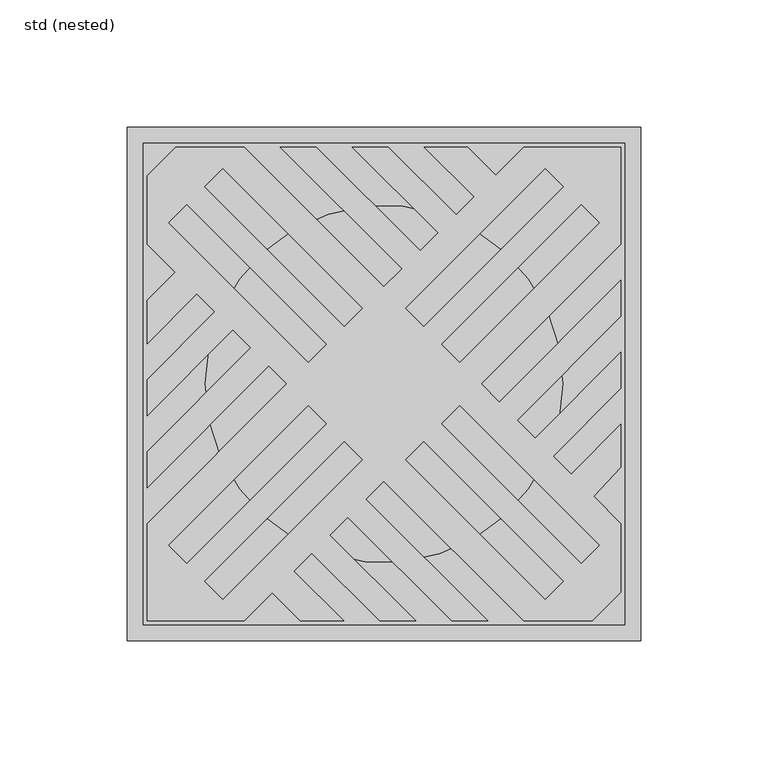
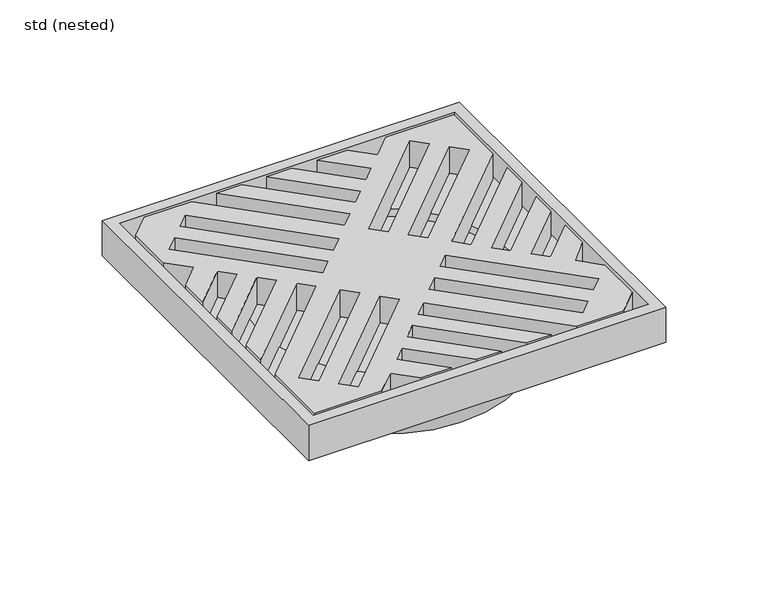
"""IFC4 building model written with IfcOpenShell, lengths in millimetres: sanitary terminal geometry, ZZZ_do not use_PF_CI_cover for Passavant Spin 200x200 M125_ACO : std (nested)."""

import ifcopenshell
import ifcopenshell.guid

model = None  # the IFC model being written
_history = None  # IfcOwnerHistory: only IFC2X3 demands one
_inside = {}  # id of a spatial element -> (the spatial element, [elements in it])
_under = {}  # id of a project, library or spatial element -> (it, [spatial elements below it])
_declared = {}  # id of a project -> (the project, [libraries it declares])
_typed = {}  # id of a type object -> (the type object, [elements of that type])
_made_of = {}  # id of a material, layer set ... -> (it, [elements and type objects made of it])


def new_model(schema):
    """Start an empty IFC model of exactly this schema.

    Asked for "IFC4X3", IfcOpenShell would pick the latest addendum, in which some entities
    have other attributes; the version numbers below select the first issue.
    IFC2X3 requires an IfcOwnerHistory on every rooted entity: one is made here for all.
    """
    global model, _history
    if schema == "IFC4X3":
        model = ifcopenshell.file(schema_version=(4, 3, 0, 0))
    else:
        model = ifcopenshell.file(schema=schema)
    _inside.clear()
    _under.clear()
    _declared.clear()
    _typed.clear()
    _made_of.clear()
    _history = None
    if model.schema == "IFC2X3":
        org = make("IfcOrganization", Name="unknown")
        user = make(
            "IfcPersonAndOrganization",
            ThePerson=make("IfcPerson", FamilyName="unknown"),
            TheOrganization=org,
        )
        app = make(
            "IfcApplication",
            ApplicationDeveloper=org,
            Version="unknown",
            ApplicationFullName="unknown",
            ApplicationIdentifier="unknown",
        )
        _history = make(
            "IfcOwnerHistory",
            OwningUser=user,
            OwningApplication=app,
            ChangeAction="ADDED",
            CreationDate=0,
        )
    return model


def make(cls, **values):
    """One entity of the class cls with the attributes given. An attribute that is None is left unset."""
    return model.create_entity(
        cls, **{name: value for name, value in values.items() if value is not None}
    )


def rooted(cls, **values):
    """An entity with a GlobalId (a new one), such as an element, a storey or a relation."""
    return make(cls, GlobalId=ifcopenshell.guid.new(), OwnerHistory=_history, **values)


def si_unit(unit_type, name, prefix=None):
    """IfcSIUnit, for example si_unit("LENGTHUNIT", "METRE", prefix="MILLI")."""
    return make("IfcSIUnit", UnitType=unit_type, Prefix=prefix, Name=name)


def assignment(units):
    """IfcUnitAssignment: the units of a project."""
    return None if units is None else make("IfcUnitAssignment", Units=units)


def point(xyz):
    """IfcCartesianPoint."""
    return None if xyz is None else make("IfcCartesianPoint", Coordinates=xyz)


def direction(xyz):
    """IfcDirection."""
    return None if xyz is None else make("IfcDirection", DirectionRatios=xyz)


def frame(location, z_axis=None, x_axis=None):
    """IfcAxis2Placement3D, a coordinate frame: its origin and axes. An axis left out is left unset."""
    return make(
        "IfcAxis2Placement3D",
        Location=point(location),
        Axis=direction(z_axis),
        RefDirection=direction(x_axis),
    )


def origin():
    """The frame at (0, 0, 0) with its axes left unset."""
    return frame((0.0, 0.0, 0.0))


def place(relative_to, where):
    """IfcLocalPlacement: puts the frame where relative to a parent placement (None: the world)."""
    return make(
        "IfcLocalPlacement", PlacementRelTo=relative_to, RelativePlacement=where
    )


def context(
    kind, dimensions, precision=None, world=None, true_north=None, identifier=None
):
    """IfcGeometricRepresentationContext, for example the 3D "Model" context."""
    return make(
        "IfcGeometricRepresentationContext",
        ContextIdentifier=identifier,
        ContextType=kind,
        CoordinateSpaceDimension=dimensions,
        Precision=precision,
        WorldCoordinateSystem=world,
        TrueNorth=true_north,
    )


def project(units=None, contexts=None):
    """IfcProject with its units and contexts."""
    return rooted(
        "IfcProject",
        Name="project",
        RepresentationContexts=contexts,
        UnitsInContext=assignment(units),
    )


def spatial(cls, under=None, at=None, **own):
    """A site, building, storey or space (cls), placed at a placement, below another one or the project."""
    s = rooted(cls, ObjectPlacement=at, **own)
    if under is not None:
        _under.setdefault(under.id(), (under, []))[1].append(s)
    return s


def polyline(points):
    """IfcPolyline through the points."""
    return make("IfcPolyline", Points=[point(p) for p in points])


def circle_curve(where, radius):
    """IfcCircle in the frame where."""
    return make("IfcCircle", Position=where, Radius=radius)


def outline(outer, holes=None, kind="AREA"):
    """IfcArbitraryClosedProfileDef: a profile drawn as a closed curve; with holes, ...WithVoids."""
    if holes is None:
        return make("IfcArbitraryClosedProfileDef", ProfileType=kind, OuterCurve=outer)
    return make(
        "IfcArbitraryProfileDefWithVoids",
        ProfileType=kind,
        OuterCurve=outer,
        InnerCurves=holes,
    )


def extrude(swept, where, along, depth):
    """IfcExtrudedAreaSolid: the profile swept, set in the frame where, extruded along a direction by depth."""
    return make(
        "IfcExtrudedAreaSolid",
        SweptArea=swept,
        Position=where,
        ExtrudedDirection=direction(along),
        Depth=depth,
    )


def faces_of(points, faces, orient=None, outer=None):
    """IfcFace entities. A face is a list of loops; a loop is a list of indices into points, from 0.

    orient and outer hold one flag for each loop. By default every Orientation is true, the
    first loop of a face is its IfcFaceOuterBound and the others are IfcFaceBound.
    """
    made = []
    for i, loops in enumerate(faces):
        bounds = []
        for j, loop in enumerate(loops):
            is_outer = j == 0 if outer is None else outer[i][j]
            bounds.append(
                make(
                    "IfcFaceOuterBound" if is_outer else "IfcFaceBound",
                    Bound=make("IfcPolyLoop", Polygon=[points[k] for k in loop]),
                    Orientation=True if orient is None else orient[i][j],
                )
            )
        made.append(make("IfcFace", Bounds=bounds))
    return made


def faceted_brep(points, faces, orient=None, outer=None, voids=None):
    """IfcFacetedBrep: a solid bounded by flat faces; with voids (closed shells), ...WithVoids."""
    shared = [point(p) for p in points]
    hull = make("IfcClosedShell", CfsFaces=faces_of(shared, faces, orient, outer))
    if voids is None:
        return make("IfcFacetedBrep", Outer=hull)
    return make(
        "IfcFacetedBrepWithVoids",
        Outer=hull,
        Voids=[
            make(cls, CfsFaces=faces_of(shared, fs, o, b)) for cls, fs, o, b in voids
        ],
    )


def shape(context_of_items, identifier, shape_type, items):
    """IfcShapeRepresentation: the items that make up one representation, for example the "Body"."""
    return make(
        "IfcShapeRepresentation",
        ContextOfItems=context_of_items,
        RepresentationIdentifier=identifier,
        RepresentationType=shape_type,
        Items=items,
    )


def source(mapping_origin, context_of_items, identifier, shape_type, items):
    """IfcRepresentationMap: a shape defined once, which mapped items show again and again."""
    return make(
        "IfcRepresentationMap",
        MappingOrigin=mapping_origin,
        MappedRepresentation=shape(context_of_items, identifier, shape_type, items),
    )


def transform(
    local_origin,
    x_axis=None,
    y_axis=None,
    z_axis=None,
    scale=None,
    scale2=None,
    scale3=None,
    uniform=True,
):
    """IfcCartesianTransformationOperator3D, or its non-uniform kind. x_axis, y_axis, z_axis: its Axis1, 2, 3."""
    if uniform:
        return make(
            "IfcCartesianTransformationOperator3D",
            Axis1=direction(x_axis),
            Axis2=direction(y_axis),
            LocalOrigin=point(local_origin),
            Scale=scale,
            Axis3=direction(z_axis),
        )
    return make(
        "IfcCartesianTransformationOperator3DnonUniform",
        Axis1=direction(x_axis),
        Axis2=direction(y_axis),
        LocalOrigin=point(local_origin),
        Scale=scale,
        Axis3=direction(z_axis),
        Scale2=scale2,
        Scale3=scale3,
    )


def mapped(mapping_source, mapping_target):
    """IfcMappedItem: shows the shape of a source again, moved by a transform."""
    return make(
        "IfcMappedItem", MappingSource=mapping_source, MappingTarget=mapping_target
    )


def made_of(thing, what):
    """Note that an element or type object is made of a material, layer set ...; save() writes the relation."""
    if what is not None:
        _made_of.setdefault(what.id(), (what, []))[1].append(thing)
    return thing


def element(
    cls,
    number,
    at=None,
    inside=None,
    cuts=None,
    type_object=None,
    material=None,
    context=None,
    identifier="Body",
    shape_type=None,
    held_by="IfcProductDefinitionShape",
    body=None,
    shapes=None,
    **own,
):
    """One element of the class cls, such as IfcWall. Its Tag is "e" and its number.

    at: its placement. inside: the storey or other place that contains it. cuts: it is an
    opening in that element (IfcRelVoidsElement). A single representation is given by context,
    identifier, shape_type and body (its items); several are given by shapes. held_by: the class
    of the entity that holds the representations. save() writes the other relations.
    """
    e = rooted(cls, Tag="e%d" % number, ObjectPlacement=at, **own)
    if body is not None:
        shapes = [shape(context, identifier, shape_type, body)]
    if shapes is not None:
        e.Representation = make(held_by, Representations=shapes)
    if inside is not None:
        _inside.setdefault(inside.id(), (inside, []))[1].append(e)
    if cuts is not None:
        rooted(
            "IfcRelVoidsElement", RelatingBuildingElement=cuts, RelatedOpeningElement=e
        )
    if type_object is not None:
        _typed.setdefault(type_object.id(), (type_object, []))[1].append(e)
    return made_of(e, material)


def aggregate(whole, parts):
    """IfcRelAggregates: a whole, such as a stair, and the parts it consists of."""
    return rooted("IfcRelAggregates", RelatingObject=whole, RelatedObjects=parts)


def save(model, path):
    """Write the relations noted so far, then the file.

    IfcRelAggregates (storeys below a building ...), IfcRelContainedInSpatialStructure (elements
    in a storey), IfcRelDefinesByType, IfcRelAssociatesMaterial and IfcRelDeclares: one each for
    every whole, place, type object, material and project.
    """
    for whole, parts in _under.values():
        aggregate(whole, parts)
    for where, things in _inside.values():
        rooted(
            "IfcRelContainedInSpatialStructure",
            RelatedElements=things,
            RelatingStructure=where,
        )
    for kind, things in _typed.values():
        rooted("IfcRelDefinesByType", RelatedObjects=things, RelatingType=kind)
    for what, things in _made_of.values():
        rooted("IfcRelAssociatesMaterial", RelatedObjects=things, RelatingMaterial=what)
    for by, libraries in _declared.values():
        rooted("IfcRelDeclares", RelatingContext=by, RelatedDefinitions=libraries)
    model.write(path)


def plane_surface(at):
    """IfcPlane: the flat surface through the origin of the frame at, square to its z axis."""
    return make("IfcPlane", Position=at)


def cylinder_surface(at, radius):
    """IfcCylindricalSurface: all points at the distance radius from the z axis of the frame at."""
    return make("IfcCylindricalSurface", Position=at, Radius=radius)


def revolved_surface(curve, axis_point, axis_direction):
    """IfcSurfaceOfRevolution: the curve turned about the line through axis_point along axis_direction."""
    return make(
        "IfcSurfaceOfRevolution",
        SweptCurve=make("IfcArbitraryOpenProfileDef", ProfileType="CURVE", Curve=curve),
        AxisPosition=make("IfcAxis1Placement", Location=point(axis_point), Axis=direction(axis_direction)),
    )


def advanced_brep(points, edges, surfaces, faces):
    """IfcAdvancedBrep: a solid bounded by faces that lie on surfaces and meet in shared edges.

    An edge is (start, end): straight between two places in points (the first is 0);
    or (start, end, curve); or (start, end, curve, False) where it runs against its curve.
    A face is (place in surfaces, loops), or (place, loops, False) where it looks against
    its surface's normal. A loop lists edges by number (the first is 1), with a minus sign
    where the edge is run from its end to its start. The first loop is the outer one.
    """
    corners = [point(p) for p in points]
    vertices = [make("IfcVertexPoint", VertexGeometry=c) for c in corners]
    made = []
    for start, end, *more in edges:
        made.append(
            make(
                "IfcEdgeCurve",
                EdgeStart=vertices[start],
                EdgeEnd=vertices[end],
                EdgeGeometry=more[0] if more else make("IfcPolyline", Points=[corners[start], corners[end]]),
                SameSense=more[1] if len(more) > 1 else True,
            )
        )
    hull = []
    for where, loops, *sense in faces:
        bounds = []
        for j, loop in enumerate(loops):
            ring = [make("IfcOrientedEdge", EdgeElement=made[abs(k) - 1], Orientation=k > 0) for k in loop]
            bounds.append(
                make(
                    "IfcFaceOuterBound" if j == 0 else "IfcFaceBound",
                    Bound=make("IfcEdgeLoop", EdgeList=ring),
                    Orientation=True,
                )
            )
        hull.append(make("IfcAdvancedFace", Bounds=bounds, FaceSurface=surfaces[where], SameSense=sense[0] if sense else True))
    return make("IfcAdvancedBrep", Outer=make("IfcClosedShell", CfsFaces=hull))


def std_nested_8a7b0f66(model_context):
    return source(origin(), model_context, "Body", "SolidModel", [
        faceted_brep([(84.95, 84.95, 8.0), (-84.95, 84.95, 8.0), (-84.95, -84.95, 8.0), (84.95, -84.95, 8.0), (78.7, 78.7, 0.0), (78.7, -78.7, 0.0), (-78.7, -78.7, 0.0), (-78.7, 78.7, 0.0)], [[[0, 1, 2, 3]], [[4, 5, 6, 7]], [[4, 7, 1, 0]], [[7, 6, 2, 1]], [[6, 5, 3, 2]], [[5, 4, 0, 3]]]),
        advanced_brep(
        [(-75.1, 0.0, -20.0), (75.1, 0.0, -20.0), (75.1, 0.0, 0.0), (-75.1, 0.0, 0.0)],
        [
            (0, 1, circle_curve(frame((0.0, 0.0, -20.0), z_axis=(0.0, 0.0, -1.0), x_axis=(1.0, 0.0, 0.0)), 75.1)),
            (1, 0, circle_curve(frame((0.0, 0.0, -20.0), z_axis=(0.0, 0.0, -1.0), x_axis=(1.0, 0.0, 0.0)), 75.1)),
            (1, 2),
            (2, 3, circle_curve(frame((0.0, 0.0, 0.0), z_axis=(0.0, 0.0, -1.0), x_axis=(1.0, 0.0, 0.0)), 75.1)),
            (3, 0),
            (3, 2, circle_curve(frame((0.0, 0.0, 0.0), z_axis=(0.0, 0.0, -1.0), x_axis=(1.0, 0.0, 0.0)), 75.1)),
        ],
        [
            plane_surface(frame((75.1, 0.0, -20.0), z_axis=(0.0, 0.0, -1.0), x_axis=(0.0, -1.0, 0.0))),
            cylinder_surface(frame((0.0, 0.0, -20.0), z_axis=(0.0, 0.0, 1.0), x_axis=(1.0, 0.0, 0.0)), 75.1),
            plane_surface(frame((75.1, 0.0, 0.0), z_axis=(0.0, 0.0, 1.0), x_axis=(0.0, 1.0, 0.0))),
        ],
        [
            (0, [[1, 2]]),
            (1, [[-2, 3, 4, 5]]),
            (1, [[-1, -5, 6, -3]]),
            (2, [[-4, -6]]),
        ],
    ),
        advanced_brep(
        [(100.75, 100.75, 8.0), (100.75, -100.75, 8.0), (-100.75, -100.75, 8.0), (-100.75, 100.75, 8.0), (-70.1, 0.0, 8.0), (70.1, 0.0, 8.0), (94.5, -94.5, 13.0), (94.5, 94.5, 13.0), (-94.5, 94.5, 13.0), (-94.5, -94.5, 13.0), (-70.1, 0.0, 13.0), (70.1, 0.0, 13.0), (100.75, 100.75, 29.0), (-100.75, 100.75, 29.0), (-100.75, -100.75, 29.0), (100.75, -100.75, 29.0), (94.5, 94.5, 29.0), (94.5, -94.5, 29.0), (-94.5, -94.5, 29.0), (-94.5, 94.5, 29.0)],
        [
            (0, 1),
            (1, 2),
            (2, 3),
            (3, 0),
            (4, 5, circle_curve(frame((0.0, 0.0, 8.0), z_axis=(0.0, 0.0, 1.0), x_axis=(1.0, 0.0, 0.0)), 70.1)),
            (5, 4, circle_curve(frame((0.0, 0.0, 8.0), z_axis=(0.0, 0.0, 1.0), x_axis=(1.0, 0.0, 0.0)), 70.1)),
            (6, 7),
            (7, 8),
            (8, 9),
            (9, 6),
            (10, 11, circle_curve(frame((0.0, 0.0, 13.0), z_axis=(0.0, 0.0, -1.0), x_axis=(1.0, 0.0, 0.0)), 70.1)),
            (11, 10, circle_curve(frame((0.0, 0.0, 13.0), z_axis=(0.0, 0.0, -1.0), x_axis=(1.0, 0.0, 0.0)), 70.1)),
            (5, 11),
            (10, 4),
            (12, 13),
            (13, 14),
            (14, 15),
            (15, 12),
            (16, 17),
            (17, 18),
            (18, 19),
            (19, 16),
            (3, 13),
            (12, 0),
            (2, 14),
            (1, 15),
            (16, 7),
            (6, 17),
            (9, 18),
            (8, 19),
        ],
        [
            plane_surface(frame((-94.5, 94.5, 8.0), z_axis=(0.0, 0.0, -1.0), x_axis=(1.0, 0.0, 0.0))),
            plane_surface(frame((-94.5, 94.5, 13.0), z_axis=(0.0, 0.0, 1.0), x_axis=(-1.0, 0.0, 0.0))),
            revolved_surface(polyline([(70.1, 0.0, 8.0), (70.1, 0.0, 13.0)]), (0.0, 0.0, 0.0), (0.0, 0.0, -1.0)),
            plane_surface(frame((-100.75, 100.75, 29.0), z_axis=(0.0, 0.0, 1.0), x_axis=(-1.0, 0.0, 0.0))),
            plane_surface(frame((100.75, 100.75, 29.0), z_axis=(0.0, 1.0, 0.0), x_axis=(0.0, 0.0, -1.0))),
            plane_surface(frame((-100.75, 100.75, 29.0), z_axis=(-1.0, 0.0, 0.0), x_axis=(0.0, 0.0, -1.0))),
            plane_surface(frame((-100.75, -100.75, 29.0), z_axis=(0.0, -1.0, 0.0), x_axis=(0.0, 0.0, -1.0))),
            plane_surface(frame((100.75, -100.75, 29.0), z_axis=(1.0, 0.0, 0.0), x_axis=(0.0, 0.0, -1.0))),
            plane_surface(frame((94.5, 94.5, 29.0), z_axis=(-1.0, 0.0, 0.0), x_axis=(0.0, 0.0, -1.0))),
            plane_surface(frame((94.5, -94.5, 29.0), z_axis=(0.0, 1.0, 0.0), x_axis=(0.0, 0.0, -1.0))),
            plane_surface(frame((-94.5, -94.5, 29.0), z_axis=(1.0, 0.0, 0.0), x_axis=(0.0, 0.0, -1.0))),
            plane_surface(frame((-94.5, 94.5, 29.0), z_axis=(0.0, -1.0, 0.0), x_axis=(0.0, 0.0, -1.0))),
        ],
        [
            (0, [[1, 2, 3, 4], [5, 6]]),
            (1, [[7, 8, 9, 10], [11, 12]]),
            (2, [[-6, 13, -11, 14]]),
            (2, [[-5, -14, -12, -13]]),
            (3, [[15, 16, 17, 18], [19, 20, 21, 22]]),
            (4, [[-4, 23, -15, 24]]),
            (5, [[-3, 25, -16, -23]]),
            (6, [[-2, 26, -17, -25]]),
            (7, [[-1, -24, -18, -26]]),
            (8, [[-19, 27, -7, 28]]),
            (9, [[-20, -28, -10, 29]]),
            (10, [[-21, -29, -9, 30]]),
            (11, [[-22, -30, -8, -27]]),
        ],
    ),
        extrude(outline(polyline([(-93.0166638, -40.6740982), (-93.0166638, -26.5319626), (-52.3425656, 14.1421356), (-59.4136335, 21.2132034), (-93.0166638, -12.3898269), (-93.0166638, 1.7523087), (-66.4847013, 28.2842712), (-73.5557691, 35.3553391), (-93.0166638, 15.8944443), (-93.0166638, 32.8650071), (-82.0410505, 43.8406204), (-93.0166638, 54.8162338), (-93.0166638, 81.7029553), (-81.7029553, 93.0166638), (-54.8328977, 93.0166638), (0.0, 38.1837662), (7.0710678, 45.254834), (-40.690762, 93.0166638), (-26.5486264, 93.0166638), (14.1421356, 52.3259018), (21.2132034, 59.3969696), (-12.3898269, 93.0), (1.7523087, 93.0), (28.2842712, 66.4680374), (35.3553391, 73.5391052), (15.8944443, 93.0), (32.8650071, 93.0), (43.8406204, 82.0243866), (54.8162338, 93.0), (93.0, 93.0), (93.0, 54.8162338), (38.1837662, 0.0), (45.254834, -7.0710678), (93.0, 40.6740982), (93.0, 26.5319626), (52.3259018, -14.1421356), (59.3969696, -21.2132034), (93.0, 12.3898269), (93.0, -1.7523087), (66.4680374, -28.2842712), (73.5391052, -35.3553391), (93.0, -15.8944443), (93.0, -32.6426597), (82.3093846, -44.1256185), (93.0, -54.8353654), (93.0, -81.7029553), (81.6862915, -93.0166638), (54.8162338, -93.0166638), (0.0, -38.20043), (-7.0710678, -45.2714978), (40.6740982, -93.0166638), (26.5319626, -93.0166638), (-14.1587995, -52.3259018), (-21.2298673, -59.3969696), (12.3898269, -93.0166638), (-1.7523087, -93.0166638), (-28.3009351, -66.4680374), (-35.3720029, -73.5391052), (-15.8944443, -93.0166638), (-32.8816709, -93.0166638), (-43.8572843, -82.0410505), (-54.8328977, -93.0166638), (-93.0166638, -93.0166638), (-93.0166638, -54.8162338), (-38.20043, 0.0), (-45.2714978, 7.0710678), (-93.0166638, -40.6740982)]), holes=[polyline([(22.627417, 15.5563492), (29.6984848, 8.4852814), (84.4992604, 63.2860569), (77.4281925, 70.3571247), (22.627417, 15.5563492)]), polyline([(63.2860569, 84.4992604), (8.4852814, 29.6984848), (15.5563492, 22.627417), (70.3571247, 77.4281925), (63.2860569, 84.4992604)]), polyline([(-22.6440808, -15.5538815), (-29.7151487, -8.4852814), (-84.5159242, -63.3051885), (-77.4448564, -70.3737886), (-22.6440808, -15.5538815)]), polyline([(-63.3027208, -84.5159242), (-8.5019452, -29.7151487), (-15.573013, -22.6440808), (-70.3737886, -77.4448564), (-63.3027208, -84.5159242)]), polyline([(-84.5159242, 63.2860569), (-29.7151487, 8.4852814), (-22.6440808, 15.5563492), (-77.4448564, 70.3571247), (-84.5159242, 63.2860569)]), polyline([(-15.573013, 22.627417), (-8.5019452, 29.6984848), (-63.3027208, 84.4992604), (-70.3737886, 77.4281925), (-15.573013, 22.627417)]), polyline([(84.4992604, -63.3051885), (29.6984848, -8.4852814), (22.627417, -15.5538815), (77.4281925, -70.3737886), (84.4992604, -63.3051885)]), polyline([(15.5563492, -22.6440808), (8.4852814, -29.7151487), (63.2860569, -84.5159242), (70.3571247, -77.4448564), (15.5563492, -22.6440808)])]), frame((0.0, 0.0, 13.0), z_axis=(0.0, 0.0, 1.0), x_axis=(1.0, 0.0, 0.0)), (0.0, 0.0, 1.0), 16.0),
    ])


if __name__ == "__main__":
    model = new_model("IFC4")
    model_context = context("Model", 3, world=origin())
    ifc_project = project(units=[si_unit("LENGTHUNIT", "METRE", prefix="MILLI")], contexts=[model_context])
    site = spatial("IfcSite", under=ifc_project)
    building = spatial("IfcBuilding", under=site)
    placement = place(None, origin())
    std_nested_shape = std_nested_8a7b0f66(model_context)
    element("IfcSanitaryTerminal", 1, ObjectType="ZZZ_do not use_PF_CI_cover for Passavant Spin 200x200 M125_ACO : std (nested)", at=placement, inside=building, context=model_context, shape_type="MappedRepresentation", body=[
        mapped(std_nested_shape, transform((0.0, 0.0, 0.0), x_axis=(1.0, 0.0, 0.0), y_axis=(0.0, 1.0, 0.0), z_axis=(0.0, 0.0, 1.0))),
    ])
    save(model, "model.ifc")
